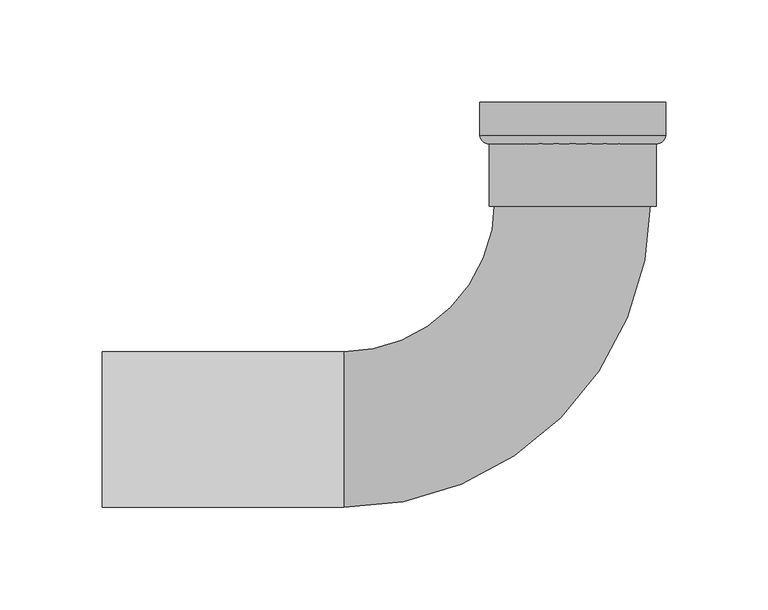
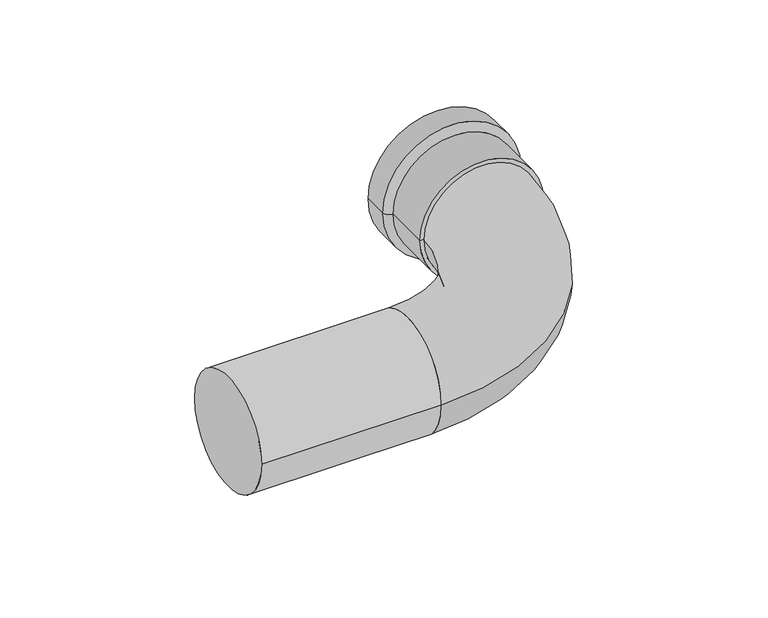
"""IFC4 building model written with IfcOpenShell, lengths in millimetres: pipe fitting geometry, VALTEC_VTi.950.I_Угольник 90° (раструб–труба) нержавеющая сталь : VTi.950.I."""

from ifc_helpers import new_model, si_unit, point, frame, origin, origin_2d, place, context, project, spatial, polyline, circle_curve, ellipse_curve, trimmed, segment, composite_curve, outline, extrude, source, transform, mapped, element, save
from ifc_brep_helpers import plane_surface, cylinder_surface, revolved_surface, advanced_brep


def pipe_fitting_adce3c4e(model_context):
    return source(origin(), model_context, "Body", "SolidModel", [
        advanced_brep(
        [(-38.05, 160.0, 0.0), (38.05, 160.0, 0.0), (45.5, 160.0, 0.0), (-45.5, 160.0, 0.0), (-38.05, 109.19, 0.0), (38.05, 109.19, 0.0), (-40.75, 109.19, 0.0), (40.75, 109.19, 0.0), (-40.75, 139.75, 0.0), (40.75, 139.75, 0.0), (-45.5, 143.6, 0.0), (45.5, 143.6, 0.0)],
        [
            (0, 1, circle_curve(frame((0.0, 160.0, 0.0), z_axis=(0.0, -1.0, 0.0), x_axis=(1.0, 0.0, 0.0)), 38.05)),
            (1, 2),
            (2, 3, circle_curve(frame((0.0, 160.0, 0.0), z_axis=(0.0, 1.0, 0.0), x_axis=(1.0, 0.0, 0.0)), 45.5)),
            (3, 0),
            (1, 0, circle_curve(frame((0.0, 160.0, 0.0), z_axis=(0.0, -1.0, 0.0), x_axis=(1.0, 0.0, 0.0)), 38.05)),
            (3, 2, circle_curve(frame((0.0, 160.0, 0.0), z_axis=(0.0, 1.0, 0.0), x_axis=(1.0, 0.0, 0.0)), 45.5)),
            (4, 5, circle_curve(frame((0.0, 109.19, 0.0), z_axis=(0.0, -1.0, 0.0), x_axis=(1.0, 0.0, 0.0)), 38.05)),
            (5, 1),
            (0, 4),
            (5, 4, circle_curve(frame((0.0, 109.19, 0.0), z_axis=(0.0, -1.0, 0.0), x_axis=(1.0, 0.0, 0.0)), 38.05)),
            (6, 7, circle_curve(frame((0.0, 109.19, 0.0), z_axis=(0.0, -1.0, 0.0), x_axis=(1.0, 0.0, 0.0)), 40.75)),
            (7, 5),
            (4, 6),
            (7, 6, circle_curve(frame((0.0, 109.19, 0.0), z_axis=(0.0, -1.0, 0.0), x_axis=(1.0, 0.0, 0.0)), 40.75)),
            (8, 9, circle_curve(frame((0.0, 139.75, 0.0), z_axis=(0.0, -1.0, 0.0), x_axis=(1.0, 0.0, 0.0)), 40.75)),
            (9, 7),
            (6, 8),
            (9, 8, circle_curve(frame((0.0, 139.75, 0.0), z_axis=(0.0, -1.0, 0.0), x_axis=(1.0, 0.0, 0.0)), 40.75)),
            (10, 11, circle_curve(frame((0.0, 143.6, 0.0), z_axis=(0.0, -1.0, 0.0), x_axis=(1.0, 0.0, 0.0)), 45.5)),
            (11, 9, circle_curve(frame((40.862345, 144.4665873, 0.0), z_axis=(0.0, 0.0, -1.0), x_axis=(0.0, -1.0, 0.0)), 4.7179251)),
            (8, 10, circle_curve(frame((-40.862345, 144.4665873, 0.0), z_axis=(0.0, 0.0, -1.0), x_axis=(0.0, -1.0, 0.0)), 4.7179251)),
            (11, 10, circle_curve(frame((0.0, 143.6, 0.0), z_axis=(0.0, -1.0, 0.0), x_axis=(1.0, 0.0, 0.0)), 45.5)),
            (2, 11),
            (10, 3),
        ],
        [
            plane_surface(frame((0.0, 160.0, 0.0), z_axis=(0.0, 1.0, 0.0), x_axis=(1.0, 0.0, 0.0))),
            revolved_surface(polyline([(38.05, 160.0, 0.0), (38.05, 109.19, 0.0)]), (0.0, 130.1506392, 0.0), (0.0, 1.0, 0.0)),
            plane_surface(frame((0.0, 109.19, 0.0), z_axis=(0.0, -1.0, 0.0), x_axis=(1.0, 0.0, 0.0))),
            cylinder_surface(frame((0.0, 130.1506392, 0.0), z_axis=(0.0, 1.0, 0.0), x_axis=(1.0, 0.0, 0.0)), 40.75),
            revolved_surface(trimmed(ellipse_curve(frame((40.862345, 144.4665873, 0.0), z_axis=(0.0, 0.0, 1.0), x_axis=(0.0, -1.0, 0.0)), 4.7179251, 4.7179251), [point((40.75, 139.75, 0.0))], [point((45.5, 143.6, 0.0))], True, "CARTESIAN"), (0.0, 130.1506392, 0.0), (0.0, 1.0, 0.0)),
            cylinder_surface(frame((0.0, 130.1506392, 0.0), z_axis=(0.0, 1.0, 0.0), x_axis=(1.0, 0.0, 0.0)), 45.5),
        ],
        [
            (0, [[1, 2, 3, 4]]),
            (0, [[5, -4, 6, -2]]),
            (1, [[7, 8, -1, 9]]),
            (1, [[10, -9, -5, -8]]),
            (2, [[11, 12, -7, 13]]),
            (2, [[14, -13, -10, -12]]),
            (3, [[15, 16, -11, 17]]),
            (3, [[18, -17, -14, -16]]),
            (4, [[19, 20, -15, 21]]),
            (4, [[22, -21, -18, -20]]),
            (5, [[-3, 23, -19, 24]]),
            (5, [[-6, -24, -22, -23]]),
        ],
    ),
        extrude(outline(composite_curve([segment(trimmed(circle_curve(origin_2d(), 38.05), [point((0.0, -38.05))], [point((0.0, 38.05))], False, "CARTESIAN"), True, "CONTINUOUS"), segment(trimmed(circle_curve(origin_2d(), 38.05), [point((0.0, 38.05))], [point((0.0, -38.05))], False, "CARTESIAN"), True, "CONTINUOUS")], self_intersect=False)), frame((0.0, 112.0, 0.0), z_axis=(0.0, 1.0, 0.0), x_axis=(0.0, 0.0, 1.0)), (0.0, 0.0, 1.0), 48.0),
        extrude(outline(composite_curve([segment(trimmed(circle_curve(origin_2d(), 38.05), [point((-38.05, 0.0))], [point((38.05, 0.0))], False, "CARTESIAN"), True, "CONTINUOUS"), segment(trimmed(circle_curve(origin_2d(), 38.05), [point((38.05, 0.0))], [point((-38.05, 0.0))], False, "CARTESIAN"), True, "CONTINUOUS")], self_intersect=False)), frame((-230.0, 0.0, 0.0), z_axis=(1.0, 0.0, 0.0), x_axis=(0.0, 1.0, 0.0)), (0.0, 0.0, 1.0), 118.0),
        advanced_brep(
        [(-112.0, -38.1051605, 0.0), (-112.0, 37.9948395, 0.0), (38.1051605, 112.0, 0.0), (-37.9948395, 112.0, 0.0)],
        [
            (0, 1, circle_curve(frame((-112.0, -0.0551605, 0.0), z_axis=(-1.0, 0.0, 0.0), x_axis=(0.0, 1.0, 0.0)), 38.05)),
            (1, 0, circle_curve(frame((-112.0, -0.0551605, 0.0), z_axis=(-1.0, 0.0, 0.0), x_axis=(0.0, 1.0, 0.0)), 38.05)),
            (2, 3, circle_curve(frame((0.0551605, 112.0, 0.0), z_axis=(0.0, 1.0, 0.0), x_axis=(-1.0, 0.0, 0.0)), 38.05)),
            (3, 2, circle_curve(frame((0.0551605, 112.0, 0.0), z_axis=(0.0, 1.0, 0.0), x_axis=(-1.0, 0.0, 0.0)), 38.05)),
            (3, 1, circle_curve(frame((-112.0, 112.0, 0.0), z_axis=(0.0, 0.0, -1.0), x_axis=(0.0, -1.0, 0.0)), 74.0051605)),
            (0, 2, circle_curve(frame((-112.0, 112.0, 0.0), z_axis=(0.0, 0.0, 1.0), x_axis=(0.0, -1.0, 0.0)), 150.1051605)),
        ],
        [
            plane_surface(frame((-112.0, 0.0, 0.0), z_axis=(-1.0, 0.0, 0.0), x_axis=(0.0, 0.0, 1.0))),
            plane_surface(frame((0.0, 112.0, 0.0), z_axis=(0.0, 1.0, 0.0), x_axis=(0.0, 0.0, 1.0))),
            revolved_surface(trimmed(ellipse_curve(frame((-112.0, -0.0551605, 0.0), z_axis=(-1.0, 0.0, 0.0), x_axis=(0.0, 1.0, 0.0)), 38.05, 38.05), [point((-112.0, -38.1051605, 0.0))], [point((-112.0, 37.9948395, 0.0))], True, "CARTESIAN"), (-112.0, 112.0, 0.0), (0.0, 0.0, 1.0)),
            revolved_surface(trimmed(ellipse_curve(frame((-112.0, -0.0551605, 0.0), z_axis=(-1.0, 0.0, 0.0), x_axis=(0.0, 1.0, 0.0)), 38.05, 38.05), [point((-112.0, 37.9948395, 0.0))], [point((-112.0, -38.1051605, 0.0))], True, "CARTESIAN"), (-112.0, 112.0, 0.0), (0.0, 0.0, 1.0)),
        ],
        [
            (0, [[1, 2]]),
            (1, [[3, 4]]),
            (2, [[5, -1, 6, -4]]),
            (3, [[-6, -2, -5, -3]]),
        ],
    ),
    ])


if __name__ == "__main__":
    model = new_model("IFC4")
    model_context = context("Model", 3, world=origin())
    ifc_project = project(units=[si_unit("LENGTHUNIT", "METRE", prefix="MILLI")], contexts=[model_context])
    site = spatial("IfcSite", under=ifc_project)
    building = spatial("IfcBuilding", under=site)
    placement = place(None, origin())
    pipe_fitting_shape = pipe_fitting_adce3c4e(model_context)
    element("IfcPipeFitting", 1, ObjectType="VALTEC_VTi.950.I_Угольник 90° (раструб–труба) нержавеющая сталь : VTi.950.I", at=placement, inside=building, context=model_context, shape_type="MappedRepresentation", body=[
        mapped(pipe_fitting_shape, transform((0.0, 0.0, 0.0), x_axis=(1.0, 0.0, 0.0), y_axis=(0.0, 1.0, 0.0), z_axis=(0.0, 0.0, 1.0))),
    ])
    save(model, "model.ifc")
